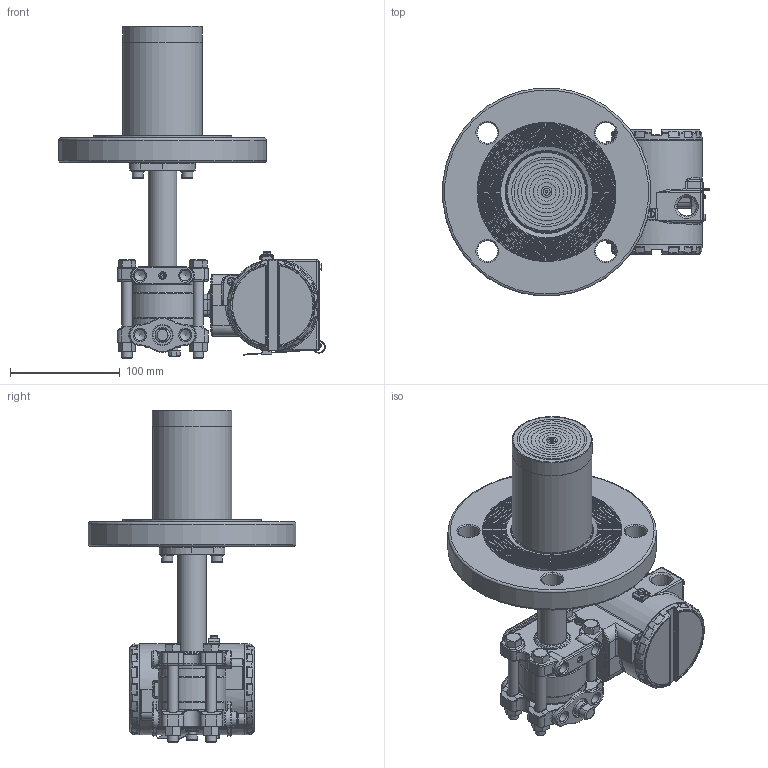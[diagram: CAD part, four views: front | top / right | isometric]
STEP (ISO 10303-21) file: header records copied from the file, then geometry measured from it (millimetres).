
FILE_DESCRIPTION(/* description */ (''),/* implementation_level */ '2;1');
FILE_NAME(/* name */ 'F:\Area\Desenvolvimento_2\Projects\Sensor\projetos\LD30X\montagens 3d - clientes\SELO NIVEL\LD30XL 3-150 RF ext 100 ref 1-4NPT purga acima.stp',/* time_stamp */ '2023-02-10T16:31:14-03:00',/* author */ ('inventor02'),/* organization */ (''),/* preprocessor_version */ 'ST-DEVELOPER v17',/* originating_system */ 'Autodesk Inventor 2019',/* authorisation */ '');
FILE_SCHEMA (('CONFIG_CONTROL_DESIGN','AP203_CONFIGURATION_CONTROLLED_3D_DESIGN_OF_MECHANICAL_PARTS_AND_ASSEMBLIES_MIM_LF { 1 0 10303 203 3 1 4 }'));
Products named in the file (41): LD30XL 3-150 RF ext 100 ref 1-4NPT purga acima; 204-0301-L-3 150 RF ext 100 purga acima; nivel fx3 com baixa diferencial 1-4NPT purga acima; involucro fx0-3 apos a usinagem final; flange diferencial std purga; 101-C-7484-01 flange selo nivel VR; 201-A-0504-tubo união teste 1; bujao 1-4NPT; Sangria; Porca 3-8 x 16 UNC; Paraf. 3-8 x 16 UNC; adaptação tubo x flanges 1-1-2 a 4pol; 101-B-0161-anel cortado do tubo - teste1; 101-B-0162-flange fixação tubo; ANSI B18.3.1M - M6x1 x 16; DIN 127 - A 6; flange 3 150 ext 100; 101-C-0111-14; 096-B-0199-14; 101-B-7701-02 ext 3-100; carcaça vazia com tampas e plaqueta; carcaça LD inox sem letras; Subconjunto plaqueta 300; Plaqueta transmissor; Parafuso da Plaqueta; Rebite da Plaqueta; 096-A-0169-03; 101-A-0502-01; Chapa aterramento externo; ISO 1207 - M4 x 8; DIN 915 - M6 x 10; ANSI B18.3.1M - M4x0,7 x 8; Subconjunto tampa com visor aluminio; tampa pintada; VIDRO DO VISOR; oring 41x1 vidro tampa; Trava do vidro da tampa com visor; trava do vidro VH256; Subconjunto tampa sem visor-aluminio; tampa cega 300 pintada p0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
Assembly tree (51 placements, depth 4):
  LD30XL 3-150 RF ext 100 ref 1-4NPT purga acima
    204-0301-L-3 150 RF ext 100 purga acima
      nivel fx3 com baixa diferencial 1-4NPT purga acima
        involucro fx0-3 apos a usinagem final
        flange diferencial std purga
        101-C-7484-01 flange selo nivel VR
        201-A-0504-tubo união teste 1
        DIN 915 - M6 x 10
        bujao 1-4NPT
        Sangria
        Porca 3-8 x 16 UNC  x4
        Paraf. 3-8 x 16 UNC  x4
      adaptação tubo x flanges 1-1-2 a 4pol
        101-B-0161-anel cortado do tubo - teste1
        101-B-0162-flange fixação tubo
        ANSI B18.3.1M - M6x1 x 16  x2
        DIN 127 - A 6  x2
      flange 3 150 ext 100
        101-C-0111-14
        096-B-0199-14
        101-B-7701-02 ext 3-100
    carcaça vazia com tampas e plaqueta
      carcaça LD inox sem letras
      Subconjunto plaqueta 300
        Plaqueta transmissor
        Parafuso da Plaqueta
        Rebite da Plaqueta
        096-A-0169-03
        101-A-0502-01
      Chapa aterramento externo
      ISO 1207 - M4 x 8
      DIN 915 - M6 x 10
      ANSI B18.3.1M - M4x0,7 x 8  x2
      Subconjunto tampa com visor aluminio
        tampa pintada
        VIDRO DO VISOR
        oring 41x1 vidro tampa
        Trava do vidro da tampa com visor
        trava do vidro VH256
        00034775-0
      Subconjunto tampa sem visor-aluminio
        tampa cega 300 pintada p0
        00034775-0
Bounding box: 242.92 x 189.28 x 302.6 mm (x, y, z)
Volume: 1340272 mm3; surface area: 381219.2 mm2
Topology: 43 solids, 43 shells, 2761 faces, 6596 edges, 3909 vertices
Faces by surface type: bspline 667, cylinder 656, plane 578, torus 486, cone 248, sphere 126
Full cylindrical faces by diameter (mm): 2 x4, 2.1 x2, 2.459 x5, 2.5 x1, 2.642 x1, 2.7 x1, 2.8 x1, 3 x4, 3.242 x4, 3.5 x5, 3.571 x1, 4 x5, 4.3 x1, 4.4 x1, 4.917 x4, 5 x1, 5.5 x3, 6 x6, 6.647 x1, 7 x7, 7.087 x2, 7.6 x2, 7.798 x4, 8 x1, 8.7 x2, 9.525 x4, 9.728 x6, 10 x2, 10.5 x8, 10.719 x2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
Entity records: 95173 total; most frequent: CARTESIAN_POINT 34741, DIRECTION 12491, ORIENTED_EDGE 12372, EDGE_CURVE 6186, AXIS2_PLACEMENT_3D 5524, VERTEX_POINT 3715, CIRCLE 3274, EDGE_LOOP 2819
